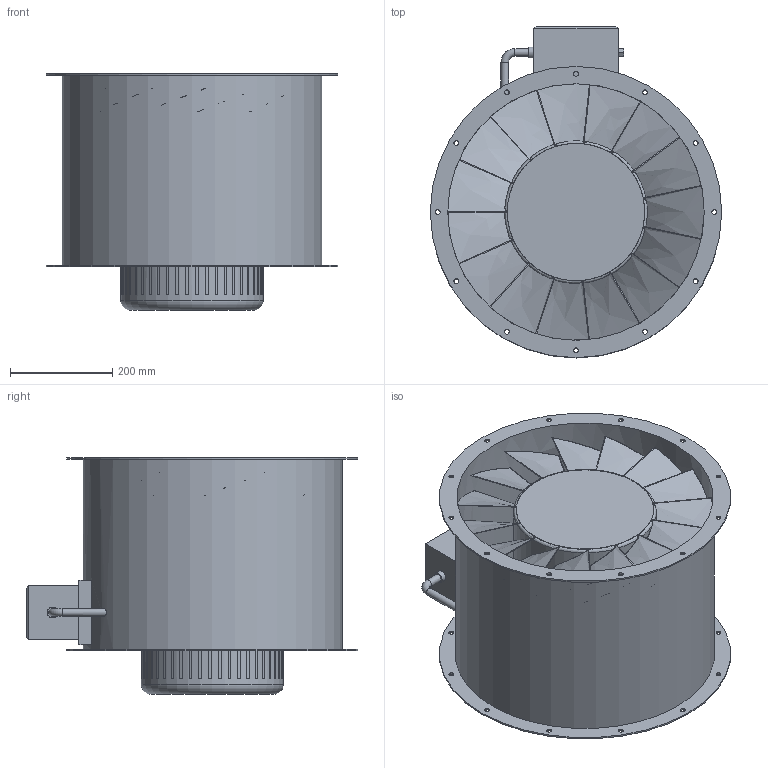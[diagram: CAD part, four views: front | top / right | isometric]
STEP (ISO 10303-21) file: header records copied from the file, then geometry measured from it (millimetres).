
FILE_DESCRIPTION(/* description */ (''),/* implementation_level */ '2;1');
FILE_NAME(/* name */ 'Z:\Output\AMD_500-8-4_0.3-1.3-03276-030.stp',/* time_stamp */ '2021-12-10T17:06:01+01:00',/* author */ ('engineering1'),/* organization */ (''),/* preprocessor_version */ 'ST-DEVELOPER v17.2',/* originating_system */ 'Autodesk Inventor 2019',/* authorisation */ '');
FILE_SCHEMA (('AUTOMOTIVE_DESIGN { 1 0 10303 214 3 1 1 }'));
Length unit declared in the file: millimetre
Products named in the file (1): AMD W
Bounding box: 570 x 649.5 x 463 mm (x, y, z)
Volume: 29868071 mm3; surface area: 2860577.8 mm2
Topology: 1 solids, 43 shells, 443 faces, 1042 edges, 659 vertices
Faces by surface type: plane 239, cylinder 142, bspline 45, torus 17
Full cylindrical faces by diameter (mm): 9.5 x24, 15 x3, 21 x1, 278.889 x1, 502 x1, 508 x1, 570 x2
Entity records: 13981 total; most frequent: CARTESIAN_POINT 3951, ORIENTED_EDGE 2084, DIRECTION 1927, EDGE_CURVE 1042, AXIS2_PLACEMENT_3D 698, VERTEX_POINT 659, LINE 531, VECTOR 531
